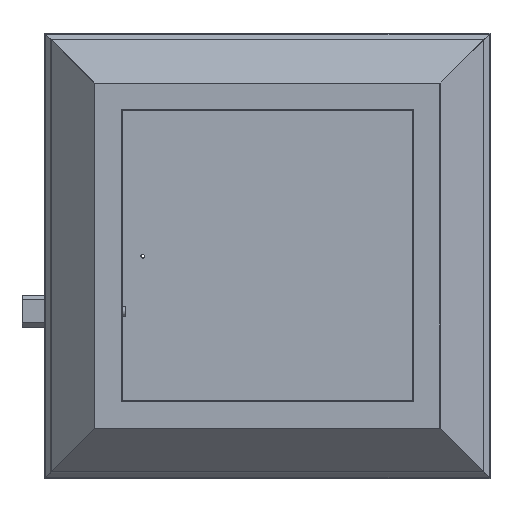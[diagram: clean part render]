
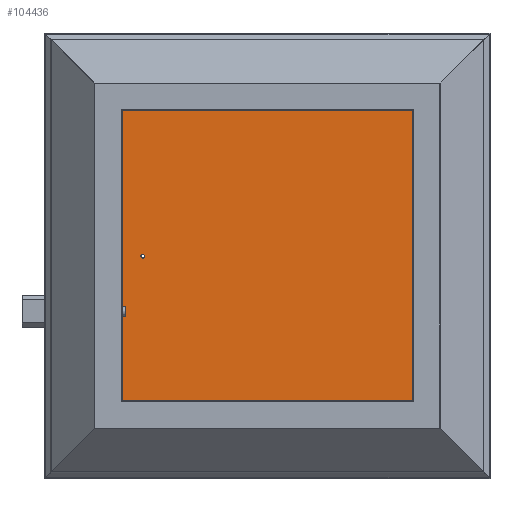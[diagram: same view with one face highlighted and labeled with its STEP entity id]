
A CAD part, top view. The second image highlights one B-rep face of the part: STEP entity #104436.
In plain terms, the highlighted planar face has unit normal (0, 0, 1).
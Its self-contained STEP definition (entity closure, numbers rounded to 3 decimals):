
#40=FACE_BOUND('',#11920,.T.);
#2411=CIRCLE('',#109219,4.);
#7139=FACE_OUTER_BOUND('',#11919,.T.);
#11919=EDGE_LOOP('',(#85336,#85337,#85338,#85339,#85340,#85341,#85342,#85343));
#11920=EDGE_LOOP('',(#85344));
#28435=LINE('',#161400,#42650);
#28436=LINE('',#161402,#42651);
#28437=LINE('',#161404,#42652);
#28438=LINE('',#161406,#42653);
#28439=LINE('',#161408,#42654);
#28440=LINE('',#161410,#42655);
#28441=LINE('',#161412,#42656);
#28442=LINE('',#161413,#42657);
#42650=VECTOR('',#132868,10.);
#42651=VECTOR('',#132869,10.);
#42652=VECTOR('',#132870,10.);
#42653=VECTOR('',#132871,10.);
#42654=VECTOR('',#132872,10.);
#42655=VECTOR('',#132873,10.);
#42656=VECTOR('',#132874,10.);
#42657=VECTOR('',#132875,10.);
#52172=VERTEX_POINT('',#161373);
#52182=VERTEX_POINT('',#161398);
#52183=VERTEX_POINT('',#161399);
#52184=VERTEX_POINT('',#161401);
#52185=VERTEX_POINT('',#161403);
#52186=VERTEX_POINT('',#161405);
#52187=VERTEX_POINT('',#161407);
#52188=VERTEX_POINT('',#161409);
#52189=VERTEX_POINT('',#161411);
#66364=EDGE_CURVE('',#52172,#52172,#2411,.T.);
#66374=EDGE_CURVE('',#52182,#52183,#28435,.F.);
#66375=EDGE_CURVE('',#52184,#52183,#28436,.F.);
#66376=EDGE_CURVE('',#52185,#52184,#28437,.F.);
#66377=EDGE_CURVE('',#52186,#52185,#28438,.F.);
#66378=EDGE_CURVE('',#52186,#52187,#28439,.F.);
#66379=EDGE_CURVE('',#52188,#52187,#28440,.F.);
#66380=EDGE_CURVE('',#52189,#52188,#28441,.T.);
#66381=EDGE_CURVE('',#52182,#52189,#28442,.F.);
#85336=ORIENTED_EDGE('',*,*,#66374,.T.);
#85337=ORIENTED_EDGE('',*,*,#66375,.F.);
#85338=ORIENTED_EDGE('',*,*,#66376,.F.);
#85339=ORIENTED_EDGE('',*,*,#66377,.F.);
#85340=ORIENTED_EDGE('',*,*,#66378,.T.);
#85341=ORIENTED_EDGE('',*,*,#66379,.F.);
#85342=ORIENTED_EDGE('',*,*,#66380,.F.);
#85343=ORIENTED_EDGE('',*,*,#66381,.F.);
#85344=ORIENTED_EDGE('',*,*,#66364,.T.);
#99667=PLANE('',#109233);
#104436=ADVANCED_FACE('',(#7139,#40),#99667,.T.);
#109219=AXIS2_PLACEMENT_3D('',#161374,#132838,#132839);
#109233=AXIS2_PLACEMENT_3D('',#161397,#132866,#132867);
#132838=DIRECTION('center_axis',(0.,0.,-1.));
#132839=DIRECTION('ref_axis',(1.,0.,0.));
#132866=DIRECTION('center_axis',(0.,0.,1.));
#132867=DIRECTION('ref_axis',(1.,0.,0.));
#132868=DIRECTION('',(-0.707,0.707,0.));
#132869=DIRECTION('',(1.,0.,0.));
#132870=DIRECTION('',(0.707,0.707,0.));
#132871=DIRECTION('',(0.,1.,0.));
#132872=DIRECTION('',(0.707,-0.707,0.));
#132873=DIRECTION('',(-1.,0.,0.));
#132874=DIRECTION('',(0.707,0.707,0.));
#132875=DIRECTION('',(0.,-1.,0.));
#161373=CARTESIAN_POINT('',(-274.5,0.,38.));
#161374=CARTESIAN_POINT('Origin',(-270.5,0.,38.));
#161397=CARTESIAN_POINT('Origin',(0.,0.,38.));
#161398=CARTESIAN_POINT('',(-371.387,-301.081,38.));
#161399=CARTESIAN_POINT('',(-301.081,-371.387,38.));
#161400=CARTESIAN_POINT('',(-336.234,-336.234,38.));
#161401=CARTESIAN_POINT('',(301.081,-371.387,38.));
#161402=CARTESIAN_POINT('',(241.5,-371.387,38.));
#161403=CARTESIAN_POINT('',(371.387,-301.081,38.));
#161404=CARTESIAN_POINT('',(336.234,-336.234,38.));
#161405=CARTESIAN_POINT('',(371.387,301.081,38.));
#161406=CARTESIAN_POINT('',(371.387,241.5,38.));
#161407=CARTESIAN_POINT('',(301.081,371.387,38.));
#161408=CARTESIAN_POINT('',(336.234,336.234,38.));
#161409=CARTESIAN_POINT('',(-301.081,371.387,38.));
#161410=CARTESIAN_POINT('',(-241.5,371.387,38.));
#161411=CARTESIAN_POINT('',(-371.387,301.081,38.));
#161412=CARTESIAN_POINT('',(-336.234,336.234,38.));
#161413=CARTESIAN_POINT('',(-371.387,-241.5,38.));
